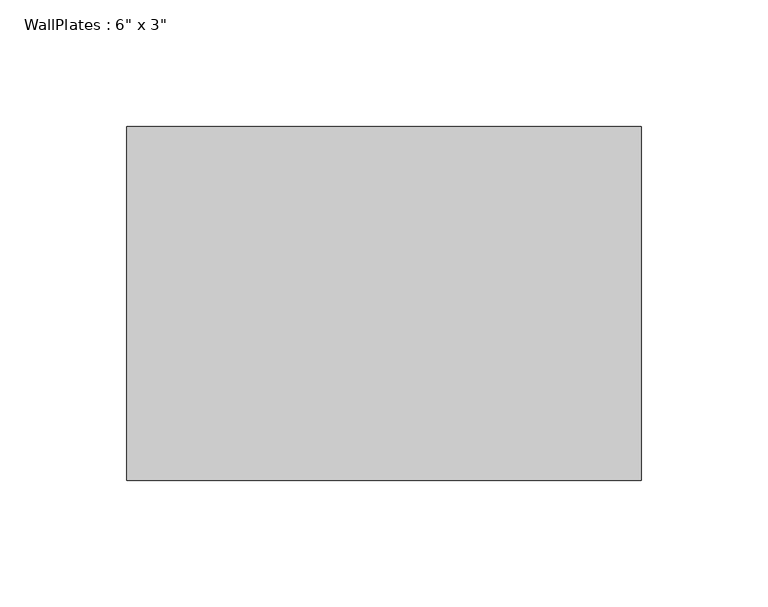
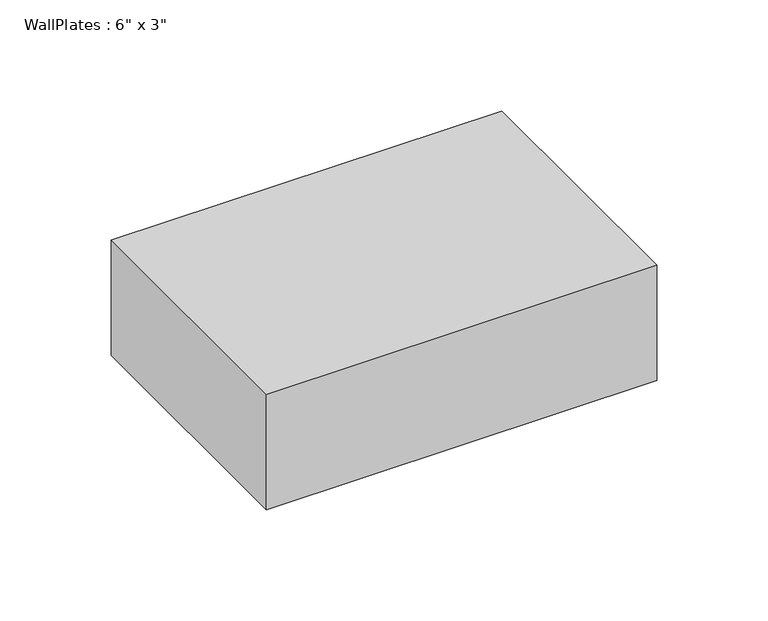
"""IFC4 building model written with IfcOpenShell, lengths in millimetres: beam geometry."""

from ifc_helpers import new_model, si_unit, frame, origin, place, context, project, spatial, polyline, outline, extrude, source, transform, mapped, element, save


def beam_bb747b8e(model_context):
    return source(origin(), model_context, "Body", "SweptSolid", [
        extrude(outline(polyline([(-101.595, -69.85), (-101.595, 69.85), (101.595, 69.85), (101.595, -69.85), (-101.595, -69.85)])), frame((0.0, 0.0, -31.75), z_axis=(0.0, 0.0, 1.0), x_axis=(1.0, 0.0, 0.0)), (0.0, 0.0, 1.0), 63.5),
    ])


if __name__ == "__main__":
    model = new_model("IFC4")
    model_context = context("Model", 3, world=origin())
    ifc_project = project(units=[si_unit("LENGTHUNIT", "METRE", prefix="MILLI")], contexts=[model_context])
    site = spatial("IfcSite", under=ifc_project)
    building = spatial("IfcBuilding", under=site)
    placement = place(None, origin())
    beam_shape = beam_bb747b8e(model_context)
    element("IfcBeam", 1, ObjectType="WallPlates : 6\" x 3\"", at=placement, inside=building, context=model_context, shape_type="MappedRepresentation", body=[
        mapped(beam_shape, transform((0.0, 0.0, 0.0), x_axis=(1.0, 0.0, 0.0), y_axis=(0.0, 1.0, 0.0), z_axis=(0.0, 0.0, 1.0))),
    ])
    save(model, "model.ifc")
